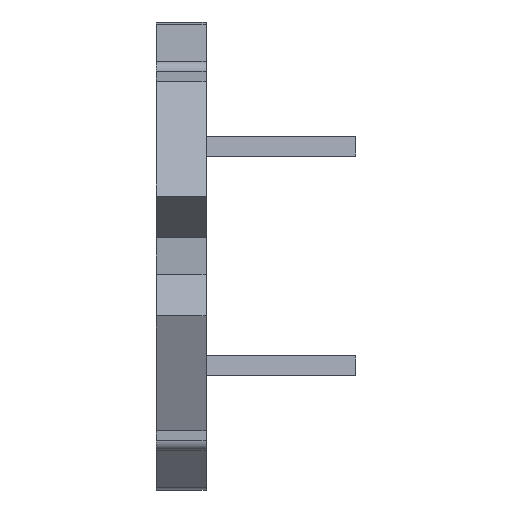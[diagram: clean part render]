
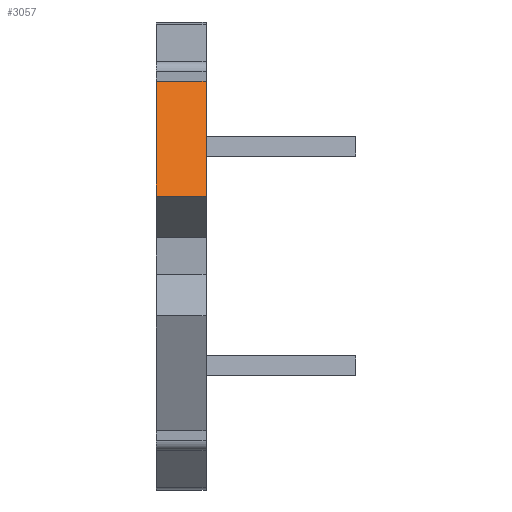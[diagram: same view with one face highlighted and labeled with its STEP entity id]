
A CAD part, left-side view. The second image highlights one B-rep face of the part: STEP entity #3057.
In plain terms, the highlighted planar face has unit normal (-0.917, 0, 0.399).
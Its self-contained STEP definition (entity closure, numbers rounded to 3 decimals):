
#94=PLANE('',#3318);
#209=FACE_OUTER_BOUND('',#414,.T.);
#414=EDGE_LOOP('',(#2504,#2505,#2506,#2507));
#575=LINE('',#4446,#914);
#621=LINE('',#4595,#960);
#739=LINE('',#4932,#1078);
#757=LINE('',#4968,#1096);
#914=VECTOR('',#3539,10.);
#960=VECTOR('',#3645,10.);
#1078=VECTOR('',#3909,10.);
#1096=VECTOR('',#3963,10.);
#1382=VERTEX_POINT('',#4443);
#1383=VERTEX_POINT('',#4445);
#1455=VERTEX_POINT('',#4593);
#1456=VERTEX_POINT('',#4594);
#1684=EDGE_CURVE('',#1382,#1383,#575,.T.);
#1758=EDGE_CURVE('',#1455,#1456,#621,.T.);
#1931=EDGE_CURVE('',#1455,#1383,#739,.T.);
#1949=EDGE_CURVE('',#1456,#1382,#757,.T.);
#2504=ORIENTED_EDGE('',*,*,#1758,.F.);
#2505=ORIENTED_EDGE('',*,*,#1931,.T.);
#2506=ORIENTED_EDGE('',*,*,#1684,.F.);
#2507=ORIENTED_EDGE('',*,*,#1949,.F.);
#3057=ADVANCED_FACE('',(#209),#94,.T.);
#3318=AXIS2_PLACEMENT_3D('',#4967,#3961,#3962);
#3539=DIRECTION('',(0.399,0.,0.917));
#3645=DIRECTION('',(-0.399,0.,-0.917));
#3909=DIRECTION('',(0.,1.,0.));
#3961=DIRECTION('center_axis',(-0.917,0.,0.399));
#3962=DIRECTION('ref_axis',(0.399,0.,0.917));
#3963=DIRECTION('',(0.,1.,0.));
#4443=CARTESIAN_POINT('',(-87.5,5.,6.));
#4445=CARTESIAN_POINT('',(-82.5,5.,17.5));
#4446=CARTESIAN_POINT('',(-82.5,5.,17.5));
#4593=CARTESIAN_POINT('',(-82.5,0.,17.5));
#4594=CARTESIAN_POINT('',(-87.5,0.,6.));
#4595=CARTESIAN_POINT('',(-82.5,0.,17.5));
#4932=CARTESIAN_POINT('',(-82.5,0.,17.5));
#4967=CARTESIAN_POINT('Origin',(-87.5,0.,6.));
#4968=CARTESIAN_POINT('',(-87.5,0.,6.));
